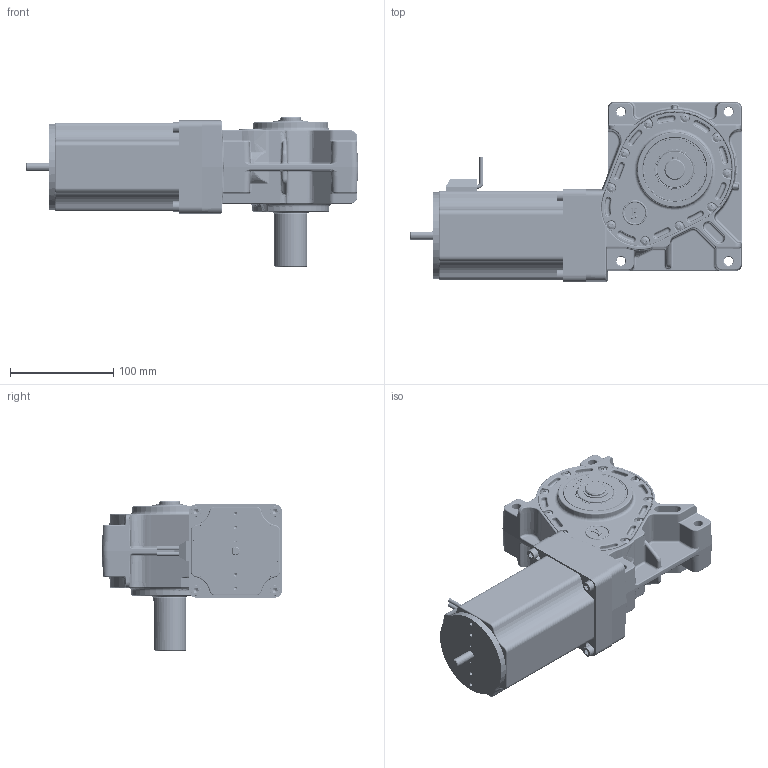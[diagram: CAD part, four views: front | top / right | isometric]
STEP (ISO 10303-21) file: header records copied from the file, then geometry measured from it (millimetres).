
FILE_DESCRIPTION (( 'STEP AP214' ), '1' );
FILE_NAME ('PBL86-80-GB65 - Shaft.STEP', '2024-09-15T09:55:05', ( '' ), ( '' ), 'SwSTEP 2.0', 'SolidWorks 2023', '' );
FILE_SCHEMA (( 'AUTOMOTIVE_DESIGN' ));
Length unit declared in the file: millimetre
Products named in the file (1): PBL86-80-GB65 - Shaft
Bounding box: 320.95 x 174.1 x 145 mm (x, y, z)
Surface area: 402004.7 mm2 (no closed solid volume)
Topology: 0 solids, 69 shells, 4941 faces, 12145 edges, 7295 vertices
Faces by surface type: bspline 1215, cylinder 1196, plane 1090, torus 702, cone 582, sphere 156
Entity records: 257897 total; most frequent: CARTESIAN_POINT 95280, ORIENTED_EDGE 23708, DIRECTION 21230, EDGE_CURVE 11854, AXIS2_PLACEMENT_3D 8672, VERTEX_POINT 7275, EDGE_LOOP 5261, UNCERTAINTY_MEASURE_WITH_UNIT 4983
